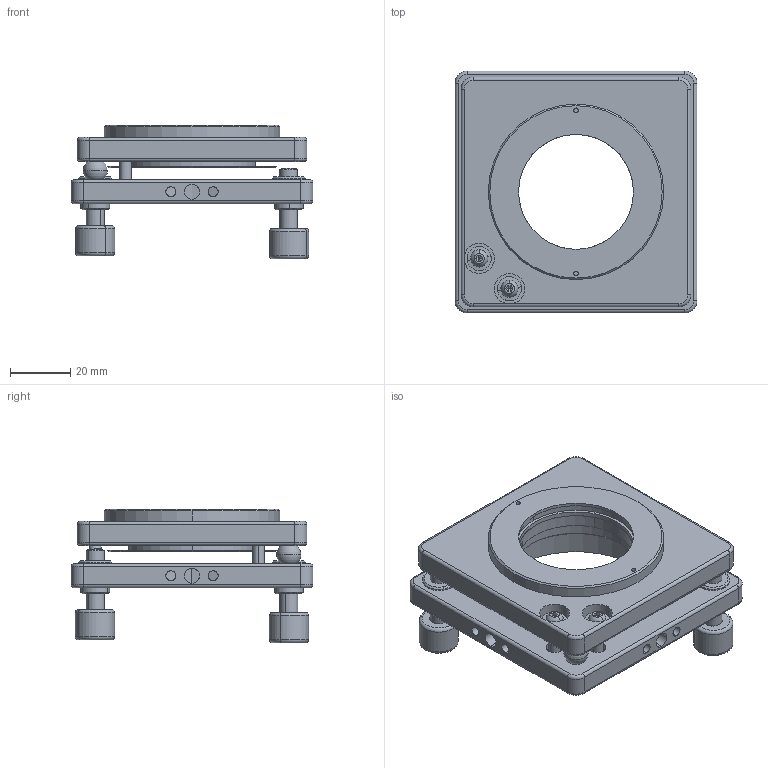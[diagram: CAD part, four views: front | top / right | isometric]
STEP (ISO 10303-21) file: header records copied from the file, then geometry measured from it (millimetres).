
FILE_DESCRIPTION (( 'STEP AP203' ), '1' );
FILE_NAME ('7MM0140謗峎覃誹噩殤.STEP', '2019-10-16T02:41:18', ( '' ), ( '' ), 'SwSTEP 2.0', 'SolidWorks 2014', '' );
FILE_SCHEMA (( 'CONFIG_CONTROL_DESIGN' ));
Length unit declared in the file: millimetre
Products named in the file (1): 7MM0140謗峎覃誹噩殤
Bounding box: 80 x 80 x 44.15 mm (x, y, z)
Surface area: 32934.5 mm2 (no closed solid volume)
Topology: 0 solids, 34 shells, 272 faces, 671 edges, 423 vertices
Faces by surface type: cylinder 102, plane 92, cone 42, torus 24, sphere 12
Entity records: 8339 total; most frequent: CARTESIAN_POINT 1695, DIRECTION 1542, ORIENTED_EDGE 1161, EDGE_CURVE 657, AXIS2_PLACEMENT_3D 628, VERTEX_POINT 417, CIRCLE 355, EDGE_LOOP 321
